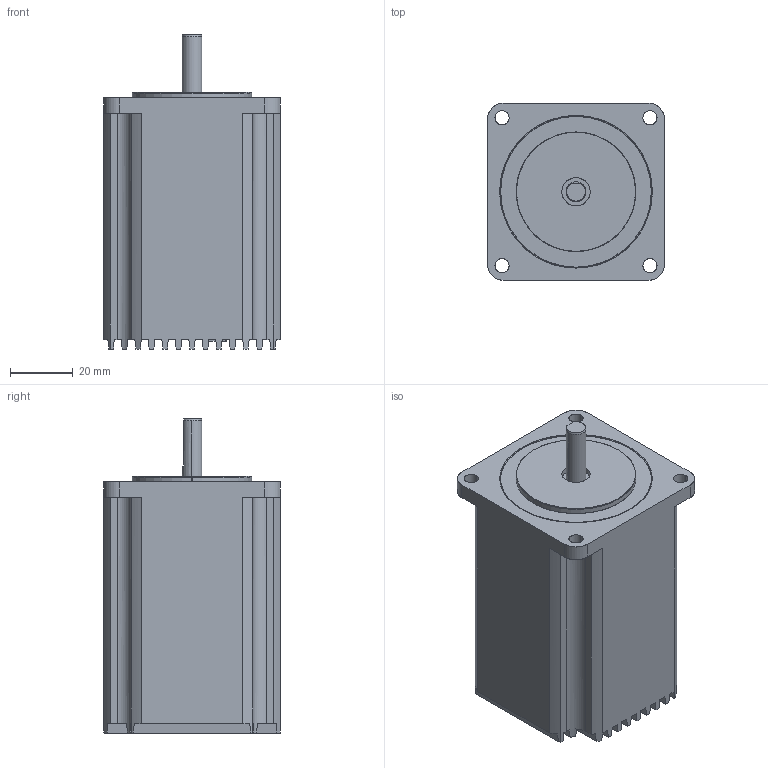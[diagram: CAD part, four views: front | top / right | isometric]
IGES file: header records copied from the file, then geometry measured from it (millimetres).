
Start section: SolidWorks IGES file using analytic representation for surfaces
Global section: file name: C:\Users\7666\Desktop\SSA-TR-56D3.IGS; native system: SolidWorks 2010; preprocessor: SolidWorks 2010; author: 7666; date: 140115.154330; units: millimetre
Bounding box: 56.4 x 56.4 x 100.1 mm (x, y, z)
Surface area: 27183.8 mm2 (no closed solid volume)
Topology: 0 solids, 0 shells, 146 faces, 1544 edges, 1544 vertices
Faces by surface type: bspline 103, revolution 43
